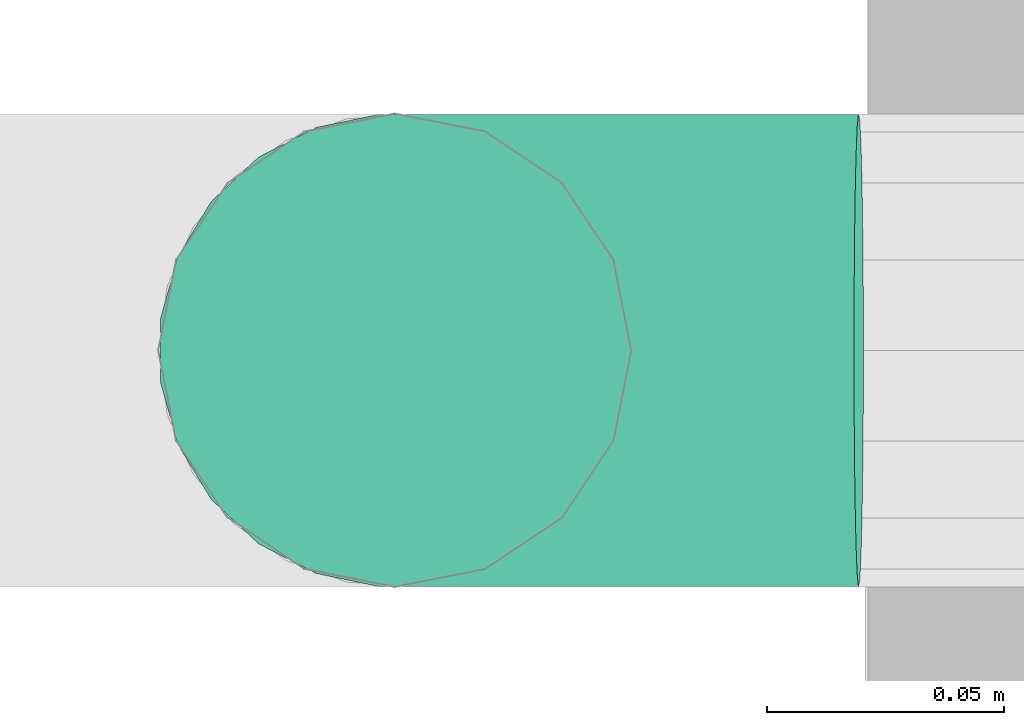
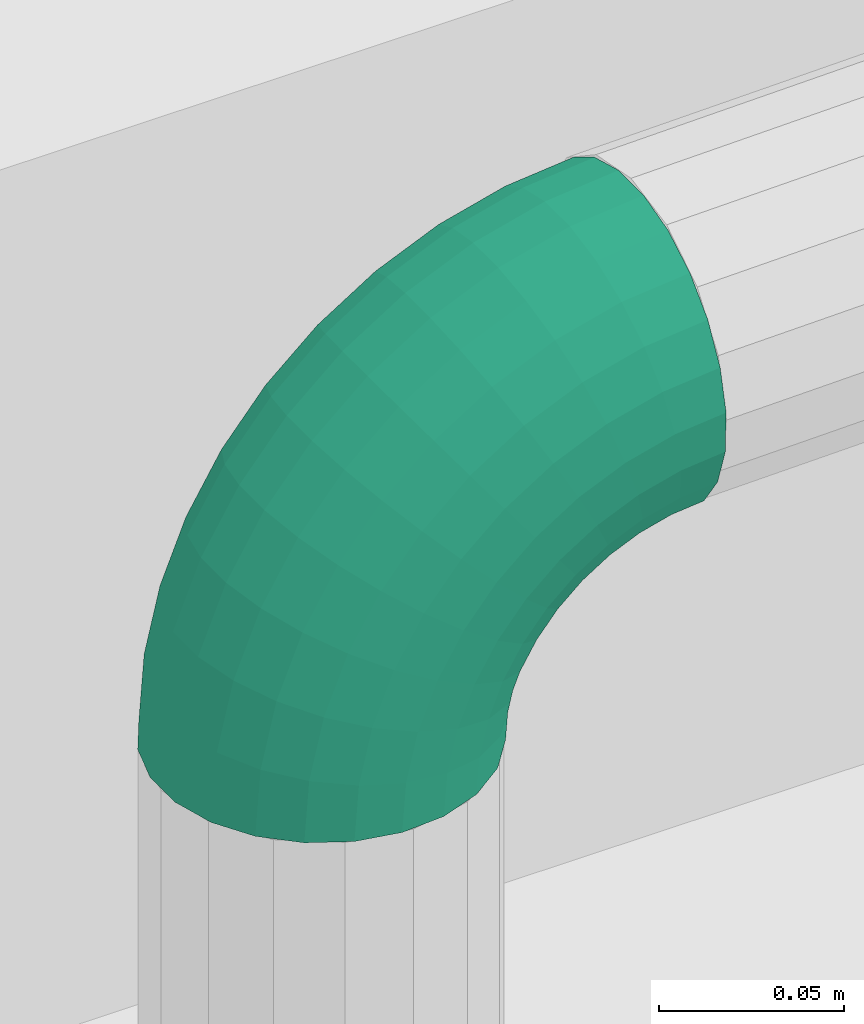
# One storey, part 78 of 106: 1 flow fitting.
"""IFC2X3 building model written with IfcOpenShell, lengths in metres."""

from ifc_helpers import new_model, entity, si_unit, converted_unit, derived_unit, money_unit, direction, frame, origin_with_axes, place, context, subcontext, project, spatial, open_shell, surface_model, material, type_object, element, save


model = new_model("IFC2X3")

# Units and contexts
model_context = context("Model", 3, precision=1e-05, world=origin_with_axes(), true_north=direction((0.0, 1.0)))
body_context = subcontext(model_context, "Body", "Model", "MODEL_VIEW", scale=1.0)
ifc_project = project(units=[si_unit("LENGTHUNIT", "METRE"), si_unit("AREAUNIT", "SQUARE_METRE"), si_unit("VOLUMEUNIT", "CUBIC_METRE"), si_unit("ABSORBEDDOSEUNIT", "GRAY"), si_unit("AMOUNTOFSUBSTANCEUNIT", "MOLE"), si_unit("DOSEEQUIVALENTUNIT", "SIEVERT"), si_unit("ELECTRICCAPACITANCEUNIT", "FARAD"), si_unit("ELECTRICCHARGEUNIT", "COULOMB"), si_unit("ELECTRICCONDUCTANCEUNIT", "SIEMENS"), si_unit("ELECTRICCURRENTUNIT", "AMPERE"), si_unit("ELECTRICRESISTANCEUNIT", "OHM"), si_unit("ELECTRICVOLTAGEUNIT", "VOLT"), si_unit("ENERGYUNIT", "JOULE"), si_unit("FORCEUNIT", "NEWTON"), si_unit("FREQUENCYUNIT", "HERTZ"), si_unit("ILLUMINANCEUNIT", "LUX"), si_unit("INDUCTANCEUNIT", "HENRY"), si_unit("LUMINOUSFLUXUNIT", "LUMEN"), si_unit("LUMINOUSINTENSITYUNIT", "CANDELA"), si_unit("MAGNETICFLUXDENSITYUNIT", "TESLA"), si_unit("MAGNETICFLUXUNIT", "WEBER"), si_unit("MASSUNIT", "GRAM"), converted_unit("PLANEANGLEUNIT", "degree", entity("IfcReal", 0.0174532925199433), si_unit("PLANEANGLEUNIT", "RADIAN"), dimensions=[0, 0, 0, 0, 0, 0, 0]), si_unit("POWERUNIT", "WATT"), si_unit("PRESSUREUNIT", "PASCAL"), si_unit("RADIOACTIVITYUNIT", "BECQUEREL"), si_unit("SOLIDANGLEUNIT", "STERADIAN"), si_unit("THERMODYNAMICTEMPERATUREUNIT", "KELVIN"), si_unit("TIMEUNIT", "SECOND"), derived_unit("ACCELERATIONUNIT", [(si_unit("LENGTHUNIT", "METRE"), 1), (si_unit("TIMEUNIT", "SECOND"), -2)]), derived_unit("ANGULARVELOCITYUNIT", [(converted_unit("PLANEANGLEUNIT", "degree", entity("IfcReal", 0.0174532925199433), si_unit("PLANEANGLEUNIT", "RADIAN"), dimensions=[0, 0, 0, 0, 0, 0, 0]), 1), (si_unit("TIMEUNIT", "SECOND"), -1)]), derived_unit("CURVATUREUNIT", [(converted_unit("PLANEANGLEUNIT", "degree", entity("IfcReal", 0.0174532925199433), si_unit("PLANEANGLEUNIT", "RADIAN"), dimensions=[0, 0, 0, 0, 0, 0, 0]), 1), (si_unit("LENGTHUNIT", "METRE"), -1)]), derived_unit("DYNAMICVISCOSITYUNIT", [(si_unit("PRESSUREUNIT", "PASCAL"), 1), (si_unit("TIMEUNIT", "SECOND"), 1)]), derived_unit("HEATFLUXDENSITYUNIT", [(si_unit("POWERUNIT", "WATT"), 1), (si_unit("LENGTHUNIT", "METRE"), -2)]), derived_unit("HEATINGVALUEUNIT", [(si_unit("ENERGYUNIT", "JOULE"), 1), (si_unit("MASSUNIT", "GRAM"), -1)]), derived_unit("INTEGERCOUNTRATEUNIT", [(si_unit("TIMEUNIT", "SECOND"), -1)]), derived_unit("IONCONCENTRATIONUNIT", [(si_unit("MASSUNIT", "GRAM"), 1), (si_unit("VOLUMEUNIT", "CUBIC_METRE"), -1)]), derived_unit("ISOTHERMALMOISTURECAPACITYUNIT", [(si_unit("VOLUMEUNIT", "CUBIC_METRE"), 1), (si_unit("MASSUNIT", "GRAM"), -1)]), derived_unit("KINEMATICVISCOSITYUNIT", [(si_unit("AREAUNIT", "SQUARE_METRE"), 1), (si_unit("TIMEUNIT", "SECOND"), -1)]), derived_unit("LINEARFORCEUNIT", [(si_unit("FORCEUNIT", "NEWTON"), 1), (si_unit("LENGTHUNIT", "METRE"), -1)]), derived_unit("LINEARMOMENTUNIT", [(si_unit("FORCEUNIT", "NEWTON"), 1), (si_unit("LENGTHUNIT", "METRE"), -1)]), derived_unit("LINEARSTIFFNESSUNIT", [(si_unit("FORCEUNIT", "NEWTON"), 1), (si_unit("LENGTHUNIT", "METRE"), -1)]), derived_unit("LINEARVELOCITYUNIT", [(si_unit("LENGTHUNIT", "METRE"), 1), (si_unit("TIMEUNIT", "SECOND"), -1)]), derived_unit("LUMINOUSINTENSITYDISTRIBUTIONUNIT", [(si_unit("LUMINOUSINTENSITYUNIT", "CANDELA"), 1), (si_unit("LUMINOUSFLUXUNIT", "LUMEN"), -1)]), derived_unit("MASSDENSITYUNIT", [(si_unit("MASSUNIT", "GRAM"), 1), (si_unit("VOLUMEUNIT", "CUBIC_METRE"), -1)]), derived_unit("MASSFLOWRATEUNIT", [(si_unit("MASSUNIT", "GRAM"), 1), (si_unit("TIMEUNIT", "SECOND"), -1)]), derived_unit("MASSPERLENGTHUNIT", [(si_unit("MASSUNIT", "GRAM"), 1), (si_unit("LENGTHUNIT", "METRE"), -1)]), derived_unit("MODULUSOFELASTICITYUNIT", [(si_unit("FORCEUNIT", "NEWTON"), 1), (si_unit("AREAUNIT", "SQUARE_METRE"), -1)]), derived_unit("MODULUSOFLINEARSUBGRADEREACTIONUNIT", [(si_unit("FORCEUNIT", "NEWTON"), 1), (si_unit("LENGTHUNIT", "METRE"), -2)]), derived_unit("MODULUSOFROTATIONALSUBGRADEREACTIONUNIT", [(si_unit("FORCEUNIT", "NEWTON"), 1), (si_unit("LENGTHUNIT", "METRE"), 1)]), derived_unit("MODULUSOFSUBGRADEREACTIONUNIT", [(si_unit("FORCEUNIT", "NEWTON"), 1), (si_unit("VOLUMEUNIT", "CUBIC_METRE"), -1)]), derived_unit("MOISTUREDIFFUSIVITYUNIT", [(si_unit("VOLUMEUNIT", "CUBIC_METRE"), 1), (si_unit("TIMEUNIT", "SECOND"), -1)]), derived_unit("MOLECULARWEIGHTUNIT", [(si_unit("MASSUNIT", "GRAM"), 1), (si_unit("AMOUNTOFSUBSTANCEUNIT", "MOLE"), -1)]), derived_unit("PLANARFORCEUNIT", [(si_unit("FORCEUNIT", "NEWTON"), 1), (si_unit("LENGTHUNIT", "METRE"), -2)]), derived_unit("ROTATIONALFREQUENCYUNIT", [(si_unit("TIMEUNIT", "SECOND"), -1)]), derived_unit("ROTATIONALMASSUNIT", [(si_unit("MASSUNIT", "GRAM"), 1), (si_unit("LENGTHUNIT", "METRE"), 2)]), derived_unit("ROTATIONALSTIFFNESSUNIT", [(si_unit("FORCEUNIT", "NEWTON"), 1), (si_unit("LENGTHUNIT", "METRE"), 1), (converted_unit("PLANEANGLEUNIT", "degree", entity("IfcReal", 0.0174532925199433), si_unit("PLANEANGLEUNIT", "RADIAN"), dimensions=[0, 0, 0, 0, 0, 0, 0]), -1)]), derived_unit("SECTIONAREAINTEGRALUNIT", [(si_unit("LENGTHUNIT", "METRE"), 5)]), derived_unit("SECTIONMODULUSUNIT", [(si_unit("LENGTHUNIT", "METRE"), 3)]), derived_unit("SHEARMODULUSUNIT", [(si_unit("FORCEUNIT", "NEWTON"), 1), (si_unit("AREAUNIT", "SQUARE_METRE"), -1)]), derived_unit("SOUNDPOWERUNIT", [(si_unit("ENERGYUNIT", "JOULE"), 1), (si_unit("TIMEUNIT", "SECOND"), -1)]), derived_unit("SPECIFICHEATCAPACITYUNIT", [(si_unit("FORCEUNIT", "NEWTON"), 1), (si_unit("MASSUNIT", "GRAM"), -1), (si_unit("THERMODYNAMICTEMPERATUREUNIT", "KELVIN"), -1)]), derived_unit("TEMPERATUREGRADIENTUNIT", [(si_unit("THERMODYNAMICTEMPERATUREUNIT", "KELVIN"), 1), (si_unit("LENGTHUNIT", "METRE"), -1)]), derived_unit("THERMALADMITTANCEUNIT", [(si_unit("POWERUNIT", "WATT"), 1), (si_unit("AREAUNIT", "SQUARE_METRE"), -1), (si_unit("THERMODYNAMICTEMPERATUREUNIT", "KELVIN"), -1)]), derived_unit("THERMALCONDUCTANCEUNIT", [(si_unit("POWERUNIT", "WATT"), 1), (si_unit("LENGTHUNIT", "METRE"), -1), (si_unit("THERMODYNAMICTEMPERATUREUNIT", "KELVIN"), -1)]), derived_unit("THERMALEXPANSIONCOEFFICIENTUNIT", [(si_unit("THERMODYNAMICTEMPERATUREUNIT", "KELVIN"), -1)]), derived_unit("THERMALRESISTANCEUNIT", [(si_unit("AREAUNIT", "SQUARE_METRE"), 1), (si_unit("POWERUNIT", "WATT"), -1)]), derived_unit("THERMALTRANSMITTANCEUNIT", [(si_unit("POWERUNIT", "WATT"), 1), (si_unit("AREAUNIT", "SQUARE_METRE"), -1), (si_unit("THERMODYNAMICTEMPERATUREUNIT", "KELVIN"), -1)]), derived_unit("TORQUEUNIT", [(si_unit("FORCEUNIT", "NEWTON"), 1), (si_unit("LENGTHUNIT", "METRE"), 1)]), derived_unit("VAPORPERMEABILITYUNIT", [(si_unit("MASSUNIT", "GRAM"), 1), (si_unit("TIMEUNIT", "SECOND"), -1)]), derived_unit("VOLUMETRICFLOWRATEUNIT", [(si_unit("VOLUMEUNIT", "CUBIC_METRE"), 1), (si_unit("TIMEUNIT", "SECOND"), -1)]), derived_unit("WARPINGCONSTANTUNIT", [(si_unit("LENGTHUNIT", "METRE"), 6)]), derived_unit("WARPINGMOMENTUNIT", [(si_unit("FORCEUNIT", "NEWTON"), 1), (si_unit("LENGTHUNIT", "METRE"), 2)]), money_unit("GBP")], contexts=[model_context])

# Site, building, storey
site_placement = place(None, origin_with_axes())
site = spatial("IfcSite", under=ifc_project, at=site_placement, Name="Site", CompositionType="ELEMENT")
building_placement = place(site_placement, origin_with_axes())
building = spatial("IfcBuilding", under=site, at=building_placement, Name="Building01", CompositionType="ELEMENT")
storey_placement = place(building_placement, origin_with_axes())
storey = spatial("IfcBuildingStorey", under=building, at=storey_placement, Name="GF", CompositionType="ELEMENT", Elevation=0.0)

# Flow fitting
ifc_material = material(Name="M_BSUK_ColdWater")
pipe_fitting_type = type_object("IfcPipeFittingType", Name="M-BmpElbow-DefaultElbow", PredefinedType="BEND")
flow_fitting_placement = place(storey_placement, frame((-0.001372, 14.95, 6.239493), z_axis=(-0.01999682, 0.0, 0.99980004), x_axis=(-0.99980004, 0.0, -0.01999682)))
element("IfcFlowFitting", 1, at=flow_fitting_placement, inside=storey, type_object=pipe_fitting_type, material=ifc_material, Name="M-BmpElbow-DefaultElbow", ObjectType="M-BmpElbow-DefaultElbow", context=body_context, shape_type="SurfaceModel", body=[
    surface_model("IfcShellBasedSurfaceModel", [(0.008009, -0.01349, -0.048768), (0.0, -0.01349, -0.048146), (0.0, 0.0, -0.05), (0.007723, 0.0, -0.0506), (0.015826, -0.01349, -0.05062), (0.015261, 0.0, -0.052386), (0.023264, -0.01349, -0.053657), (0.022432, 0.0, -0.055314), (0.030143, -0.01349, -0.057807), (0.029065, 0.0, -0.059315), (0.036298, -0.01349, -0.062969), (0.035, 0.0, -0.064293), (0.041582, -0.01349, -0.06902), (0.040095, 0.0, -0.070127), (0.045868, -0.01349, -0.075814), (0.044228, 0.0, -0.076679), (0.049054, -0.01349, -0.083189), (0.0473, 0.0, -0.08379), (0.051061, -0.01349, -0.090968), (0.049236, 0.0, -0.091291), (0.051844, -0.01349, -0.098963), (0.04999, 0.0, -0.099), (0.008847, -0.025979, -0.043408), (0.0, -0.025979, -0.042721), (0.017482, -0.025979, -0.045454), (0.025697, -0.025979, -0.048809), (0.033296, -0.025979, -0.053392), (0.040095, -0.025979, -0.059095), (0.045932, -0.025979, -0.065779), (0.050667, -0.025979, -0.073284), (0.054185, -0.025979, -0.081431), (0.056403, -0.025979, -0.090023), (0.057268, -0.025979, -0.098855), (0.010175, -0.036542, -0.034918), (0.0, -0.036542, -0.034128), (0.020105, -0.036542, -0.037271), (0.029553, -0.036542, -0.041129), (0.038291, -0.036542, -0.0464), (0.046111, -0.036542, -0.052958), (0.052823, -0.036542, -0.060645), (0.058268, -0.036542, -0.069276), (0.062315, -0.036542, -0.078645), (0.064865, -0.036542, -0.088526), (0.065859, -0.036542, -0.098683), (0.011893, -0.044394, -0.023927), (0.0, -0.044394, -0.023003), (0.0235, -0.044394, -0.026677), (0.034544, -0.044394, -0.031187), (0.044758, -0.044394, -0.037348), (0.053898, -0.044394, -0.045013), (0.061744, -0.044394, -0.053998), (0.068109, -0.044394, -0.064087), (0.072838, -0.044394, -0.075038), (0.07582, -0.044394, -0.086588), (0.076981, -0.044394, -0.09846), (0.013875, -0.048954, -0.011251), (0.0, -0.048954, -0.010173), (0.027416, -0.048954, -0.014459), (0.0403, -0.048954, -0.01972), (0.052216, -0.048954, -0.026908), (0.062879, -0.048954, -0.035851), (0.072033, -0.048954, -0.046333), (0.079458, -0.048954, -0.058103), (0.084976, -0.048954, -0.070879), (0.088454, -0.048954, -0.084353), (0.089809, -0.048954, -0.098204), (0.015973, -0.049883, 0.002171), (0.0, -0.049883, 0.003412), (0.031562, -0.049883, -0.001522), (0.046394, -0.049883, -0.007579), (0.060113, -0.049883, -0.015854), (0.072389, -0.049883, -0.026149), (0.082927, -0.049883, -0.038216), (0.091475, -0.049883, -0.051767), (0.097827, -0.049883, -0.066475), (0.101831, -0.049883, -0.081987), (0.103391, -0.049883, -0.097932), (0.018032, -0.047113, 0.015343), (0.0, -0.047113, 0.016744), (0.035632, -0.047113, 0.011174), (0.052376, -0.047113, 0.004336), (0.067863, -0.047113, -0.005006), (0.081721, -0.047113, -0.016628), (0.093618, -0.047113, -0.030251), (0.103268, -0.047113, -0.045548), (0.110439, -0.047113, -0.062153), (0.114959, -0.047113, -0.079665), (0.116721, -0.047113, -0.097665), (0.0199, -0.040848, 0.027288), (0.0, -0.040848, 0.028834), (0.039322, -0.040848, 0.022687), (0.0578, -0.040848, 0.015141), (0.074891, -0.040848, 0.004831), (0.090184, -0.040848, -0.007994), (0.103313, -0.040848, -0.023028), (0.113962, -0.040848, -0.039909), (0.121876, -0.040848, -0.058233), (0.126865, -0.040848, -0.077559), (0.128808, -0.040848, -0.097424), (0.021437, -0.031554, 0.03712), (0.0, -0.031554, 0.038786), (0.042359, -0.031554, 0.032163), (0.062264, -0.031554, 0.024035), (0.080675, -0.031554, 0.012929), (0.09715, -0.031554, -0.000887), (0.111293, -0.031554, -0.017083), (0.122765, -0.031554, -0.035268), (0.13129, -0.031554, -0.055007), (0.136664, -0.031554, -0.075826), (0.138758, -0.031554, -0.097225), (0.022529, -0.01992, 0.04411), (0.0, -0.01992, 0.045861), (0.044518, -0.01992, 0.038901), (0.065438, -0.01992, 0.030358), (0.084788, -0.01992, 0.018686), (0.102103, -0.01992, 0.004165), (0.116966, -0.01992, -0.012856), (0.129023, -0.01992, -0.031968), (0.137983, -0.01992, -0.052713), (0.143631, -0.01992, -0.074593), (0.145831, -0.01992, -0.097083), (0.023097, -0.006808, 0.04774), (0.0, -0.006808, 0.049534), (0.045639, -0.006808, 0.042399), (0.067087, -0.006808, 0.033641), (0.086924, -0.006808, 0.021675), (0.104674, -0.006808, 0.006789), (0.119912, -0.006808, -0.010661), (0.132273, -0.006808, -0.030254), (0.141458, -0.006808, -0.051522), (0.147248, -0.006808, -0.073953), (0.149504, -0.006808, -0.09701), (0.023097, 0.006808, 0.04774), (0.0, 0.006808, 0.049534), (0.045639, 0.006808, 0.042399), (0.067087, 0.006808, 0.033641), (0.086924, 0.006808, 0.021675), (0.104674, 0.006808, 0.006789), (0.119912, 0.006808, -0.010661), (0.132273, 0.006808, -0.030254), (0.141458, 0.006808, -0.051522), (0.147248, 0.006808, -0.073953), (0.149504, 0.006808, -0.09701), (0.022529, 0.01992, 0.04411), (0.0, 0.01992, 0.045861), (0.044518, 0.01992, 0.038901), (0.065438, 0.01992, 0.030358), (0.084788, 0.01992, 0.018686), (0.102103, 0.01992, 0.004165), (0.116966, 0.01992, -0.012856), (0.129023, 0.01992, -0.031968), (0.137983, 0.01992, -0.052713), (0.143631, 0.01992, -0.074593), (0.145831, 0.01992, -0.097083), (0.021437, 0.031554, 0.03712), (0.0, 0.031554, 0.038786), (0.042359, 0.031554, 0.032163), (0.062264, 0.031554, 0.024035), (0.080675, 0.031554, 0.012929), (0.09715, 0.031554, -0.000887), (0.111293, 0.031554, -0.017083), (0.122765, 0.031554, -0.035268), (0.13129, 0.031554, -0.055007), (0.136664, 0.031554, -0.075826), (0.138758, 0.031554, -0.097225), (0.0199, 0.040848, 0.027288), (0.0, 0.040848, 0.028834), (0.039322, 0.040848, 0.022687), (0.0578, 0.040848, 0.015141), (0.074891, 0.040848, 0.004831), (0.090184, 0.040848, -0.007994), (0.103313, 0.040848, -0.023028), (0.113962, 0.040848, -0.039909), (0.121876, 0.040848, -0.058233), (0.126865, 0.040848, -0.077559), (0.128808, 0.040848, -0.097424), (0.018032, 0.047113, 0.015343), (0.0, 0.047113, 0.016744), (0.035632, 0.047113, 0.011174), (0.052376, 0.047113, 0.004336), (0.067863, 0.047113, -0.005006), (0.081721, 0.047113, -0.016628), (0.093618, 0.047113, -0.030251), (0.103268, 0.047113, -0.045548), (0.110439, 0.047113, -0.062153), (0.114959, 0.047113, -0.079665), (0.116721, 0.047113, -0.097665), (0.015973, 0.049883, 0.002171), (0.0, 0.049883, 0.003412), (0.031562, 0.049883, -0.001522), (0.046394, 0.049883, -0.007579), (0.060113, 0.049883, -0.015854), (0.072389, 0.049883, -0.026149), (0.082927, 0.049883, -0.038216), (0.091475, 0.049883, -0.051767), (0.097827, 0.049883, -0.066475), (0.101831, 0.049883, -0.081987), (0.103391, 0.049883, -0.097932), (0.013875, 0.048954, -0.011251), (0.0, 0.048954, -0.010173), (0.027416, 0.048954, -0.014459), (0.0403, 0.048954, -0.01972), (0.052216, 0.048954, -0.026908), (0.062879, 0.048954, -0.035851), (0.072033, 0.048954, -0.046333), (0.079458, 0.048954, -0.058103), (0.084976, 0.048954, -0.070879), (0.088454, 0.048954, -0.084353), (0.089809, 0.048954, -0.098204), (0.011893, 0.044394, -0.023927), (0.0, 0.044394, -0.023003), (0.0235, 0.044394, -0.026677), (0.034544, 0.044394, -0.031187), (0.044758, 0.044394, -0.037348), (0.053898, 0.044394, -0.045013), (0.061744, 0.044394, -0.053998), (0.068109, 0.044394, -0.064087), (0.072838, 0.044394, -0.075038), (0.07582, 0.044394, -0.086588), (0.076981, 0.044394, -0.09846), (0.010175, 0.036542, -0.034918), (0.0, 0.036542, -0.034128), (0.020105, 0.036542, -0.037271), (0.029553, 0.036542, -0.041129), (0.038291, 0.036542, -0.0464), (0.046111, 0.036542, -0.052958), (0.052823, 0.036542, -0.060645), (0.058268, 0.036542, -0.069276), (0.062315, 0.036542, -0.078645), (0.064865, 0.036542, -0.088526), (0.065859, 0.036542, -0.098683), (0.008847, 0.025979, -0.043408), (0.0, 0.025979, -0.042721), (0.017482, 0.025979, -0.045454), (0.025697, 0.025979, -0.048809), (0.033296, 0.025979, -0.053392), (0.040095, 0.025979, -0.059095), (0.045932, 0.025979, -0.065779), (0.050667, 0.025979, -0.073284), (0.054185, 0.025979, -0.081431), (0.056403, 0.025979, -0.090023), (0.057268, 0.025979, -0.098855), (0.008009, 0.01349, -0.048768), (0.0, 0.01349, -0.048146), (0.015826, 0.01349, -0.05062), (0.023264, 0.01349, -0.053657), (0.030143, 0.01349, -0.057807), (0.036298, 0.01349, -0.062969), (0.041582, 0.01349, -0.06902), (0.045868, 0.01349, -0.075814), (0.049054, 0.01349, -0.083189), (0.051061, 0.01349, -0.090968), (0.051844, 0.01349, -0.098963)], [open_shell([[[0, 1, 2, 3]], [[4, 0, 3, 5]], [[6, 4, 5, 7]], [[8, 6, 7, 9]], [[10, 8, 9, 11]], [[12, 10, 11, 13]], [[14, 12, 13, 15]], [[16, 14, 15, 17]], [[18, 16, 17, 19]], [[20, 18, 19, 21]], [[22, 23, 1, 0]], [[24, 22, 0, 4]], [[25, 24, 4, 6]], [[26, 25, 6, 8]], [[27, 26, 8, 10]], [[28, 27, 10, 12]], [[29, 28, 12, 14]], [[30, 29, 14, 16]], [[31, 30, 16, 18]], [[32, 31, 18, 20]], [[33, 34, 23, 22]], [[35, 33, 22, 24]], [[36, 35, 24, 25]], [[37, 36, 25, 26]], [[38, 37, 26, 27]], [[39, 38, 27, 28]], [[40, 39, 28, 29]], [[41, 40, 29, 30]], [[42, 41, 30, 31]], [[43, 42, 31, 32]], [[44, 45, 34, 33]], [[46, 44, 33, 35]], [[47, 46, 35, 36]], [[48, 47, 36, 37]], [[49, 48, 37, 38]], [[50, 49, 38, 39]], [[51, 50, 39, 40]], [[52, 51, 40, 41]], [[53, 52, 41, 42]], [[54, 53, 42, 43]], [[55, 56, 45, 44]], [[57, 55, 44, 46]], [[58, 57, 46, 47]], [[59, 58, 47, 48]], [[60, 59, 48, 49]], [[61, 60, 49, 50]], [[62, 61, 50, 51]], [[63, 62, 51, 52]], [[64, 63, 52, 53]], [[65, 64, 53, 54]], [[66, 67, 56, 55]], [[68, 66, 55, 57]], [[69, 68, 57, 58]], [[70, 69, 58, 59]], [[71, 70, 59, 60]], [[72, 71, 60, 61]], [[73, 72, 61, 62]], [[74, 73, 62, 63]], [[75, 74, 63, 64]], [[76, 75, 64, 65]], [[77, 78, 67, 66]], [[79, 77, 66, 68]], [[80, 79, 68, 69]], [[81, 80, 69, 70]], [[82, 81, 70, 71]], [[83, 82, 71, 72]], [[84, 83, 72, 73]], [[85, 84, 73, 74]], [[86, 85, 74, 75]], [[87, 86, 75, 76]], [[88, 89, 78, 77]], [[90, 88, 77, 79]], [[91, 90, 79, 80]], [[92, 91, 80, 81]], [[93, 92, 81, 82]], [[94, 93, 82, 83]], [[95, 94, 83, 84]], [[96, 95, 84, 85]], [[97, 96, 85, 86]], [[98, 97, 86, 87]], [[99, 100, 89, 88]], [[101, 99, 88, 90]], [[102, 101, 90, 91]], [[103, 102, 91, 92]], [[104, 103, 92, 93]], [[105, 104, 93, 94]], [[106, 105, 94, 95]], [[107, 106, 95, 96]], [[108, 107, 96, 97]], [[109, 108, 97, 98]], [[110, 111, 100, 99]], [[112, 110, 99, 101]], [[113, 112, 101, 102]], [[114, 113, 102, 103]], [[115, 114, 103, 104]], [[116, 115, 104, 105]], [[117, 116, 105, 106]], [[118, 117, 106, 107]], [[119, 118, 107, 108]], [[120, 119, 108, 109]], [[121, 122, 111, 110]], [[123, 121, 110, 112]], [[124, 123, 112, 113]], [[125, 124, 113, 114]], [[126, 125, 114, 115]], [[127, 126, 115, 116]], [[128, 127, 116, 117]], [[129, 128, 117, 118]], [[130, 129, 118, 119]], [[131, 130, 119, 120]], [[132, 133, 122, 121]], [[134, 132, 121, 123]], [[135, 134, 123, 124]], [[136, 135, 124, 125]], [[137, 136, 125, 126]], [[138, 137, 126, 127]], [[139, 138, 127, 128]], [[140, 139, 128, 129]], [[141, 140, 129, 130]], [[142, 141, 130, 131]], [[143, 144, 133, 132]], [[145, 143, 132, 134]], [[146, 145, 134, 135]], [[147, 146, 135, 136]], [[148, 147, 136, 137]], [[149, 148, 137, 138]], [[150, 149, 138, 139]], [[151, 150, 139, 140]], [[152, 151, 140, 141]], [[153, 152, 141, 142]], [[154, 155, 144, 143]], [[156, 154, 143, 145]], [[157, 156, 145, 146]], [[158, 157, 146, 147]], [[159, 158, 147, 148]], [[160, 159, 148, 149]], [[161, 160, 149, 150]], [[162, 161, 150, 151]], [[163, 162, 151, 152]], [[164, 163, 152, 153]], [[165, 166, 155, 154]], [[167, 165, 154, 156]], [[168, 167, 156, 157]], [[169, 168, 157, 158]], [[170, 169, 158, 159]], [[171, 170, 159, 160]], [[172, 171, 160, 161]], [[173, 172, 161, 162]], [[174, 173, 162, 163]], [[175, 174, 163, 164]], [[176, 177, 166, 165]], [[178, 176, 165, 167]], [[179, 178, 167, 168]], [[180, 179, 168, 169]], [[181, 180, 169, 170]], [[182, 181, 170, 171]], [[183, 182, 171, 172]], [[184, 183, 172, 173]], [[185, 184, 173, 174]], [[186, 185, 174, 175]], [[187, 188, 177, 176]], [[189, 187, 176, 178]], [[190, 189, 178, 179]], [[191, 190, 179, 180]], [[192, 191, 180, 181]], [[193, 192, 181, 182]], [[194, 193, 182, 183]], [[195, 194, 183, 184]], [[196, 195, 184, 185]], [[197, 196, 185, 186]], [[198, 199, 188, 187]], [[200, 198, 187, 189]], [[201, 200, 189, 190]], [[202, 201, 190, 191]], [[203, 202, 191, 192]], [[204, 203, 192, 193]], [[205, 204, 193, 194]], [[206, 205, 194, 195]], [[207, 206, 195, 196]], [[208, 207, 196, 197]], [[209, 210, 199, 198]], [[211, 209, 198, 200]], [[212, 211, 200, 201]], [[213, 212, 201, 202]], [[214, 213, 202, 203]], [[215, 214, 203, 204]], [[216, 215, 204, 205]], [[217, 216, 205, 206]], [[218, 217, 206, 207]], [[219, 218, 207, 208]], [[220, 221, 210, 209]], [[222, 220, 209, 211]], [[223, 222, 211, 212]], [[224, 223, 212, 213]], [[225, 224, 213, 214]], [[226, 225, 214, 215]], [[227, 226, 215, 216]], [[228, 227, 216, 217]], [[229, 228, 217, 218]], [[230, 229, 218, 219]], [[231, 232, 221, 220]], [[233, 231, 220, 222]], [[234, 233, 222, 223]], [[235, 234, 223, 224]], [[236, 235, 224, 225]], [[237, 236, 225, 226]], [[238, 237, 226, 227]], [[239, 238, 227, 228]], [[240, 239, 228, 229]], [[241, 240, 229, 230]], [[242, 243, 232, 231]], [[244, 242, 231, 233]], [[245, 244, 233, 234]], [[246, 245, 234, 235]], [[247, 246, 235, 236]], [[248, 247, 236, 237]], [[249, 248, 237, 238]], [[250, 249, 238, 239]], [[251, 250, 239, 240]], [[252, 251, 240, 241]], [[3, 2, 243, 242]], [[5, 3, 242, 244]], [[7, 5, 244, 245]], [[9, 7, 245, 246]], [[11, 9, 246, 247]], [[13, 11, 247, 248]], [[15, 13, 248, 249]], [[17, 15, 249, 250]], [[19, 17, 250, 251]], [[21, 19, 251, 252]]])]),
])

save(model, "model.ifc")
